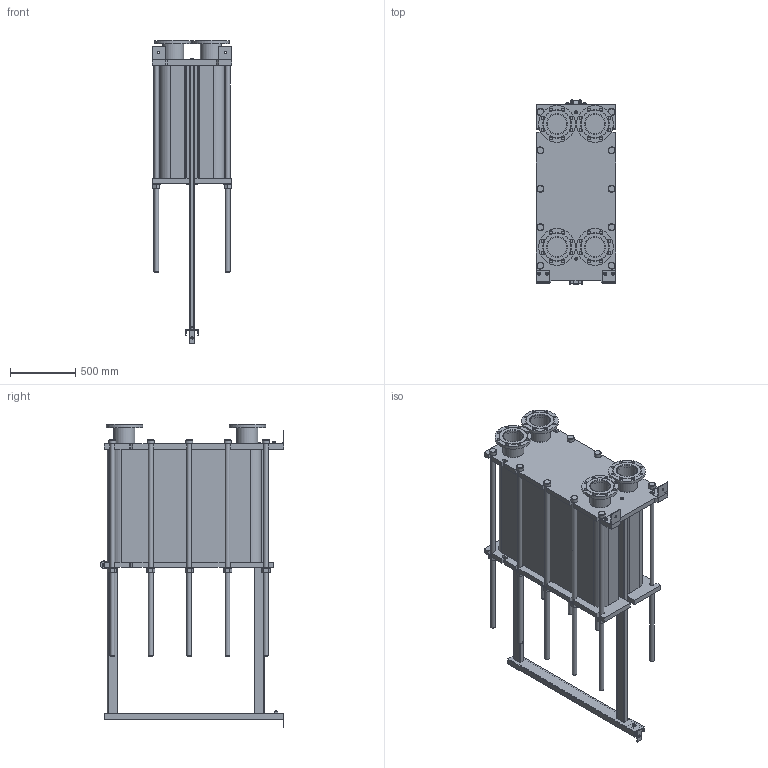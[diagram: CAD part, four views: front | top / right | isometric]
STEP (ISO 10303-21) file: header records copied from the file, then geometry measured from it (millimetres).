
FILE_DESCRIPTION(/* description */ (''),/* implementation_level */ '2;1');
FILE_NAME(/* name */ 'C:\Users\zhuro\Desktop\ENCO\TO\ЭН-041\ЭН-0,5-041-251-1.stp',/* time_stamp */ '2022-06-06T11:10:08+03:00',/* author */ ('zhuro'),/* organization */ (''),/* preprocessor_version */ 'ST-DEVELOPER v18.1',/* originating_system */ 'Autodesk Inventor 2022',/* authorisation */ '');
FILE_SCHEMA (('AUTOMOTIVE_DESIGN { 1 0 10303 214 3 1 1 }'));
Length unit declared in the file: millimetre
Products named in the file (1): ЭН-0,5-041-251-1
Bounding box: 610 x 1406.5 x 2322.5 mm (x, y, z)
Volume: 578126869.8 mm3; surface area: 12353937.3 mm2
Topology: 52 solids, 52 shells, 711 faces, 1696 edges, 1094 vertices
Faces by surface type: plane 487, cylinder 177, cone 41, torus 6
Full cylindrical faces by diameter (mm): 8 x4, 10 x2, 16 x8, 18 x3, 22 x32, 36 x24, 50 x1, 54 x10, 60 x12, 151 x4, 161 x8, 280 x4
Entity records: 22667 total; most frequent: CARTESIAN_POINT 5230, DIRECTION 3644, ORIENTED_EDGE 3392, EDGE_CURVE 1696, AXIS2_PLACEMENT_3D 1272, LINE 1100, VECTOR 1100, VERTEX_POINT 1094
